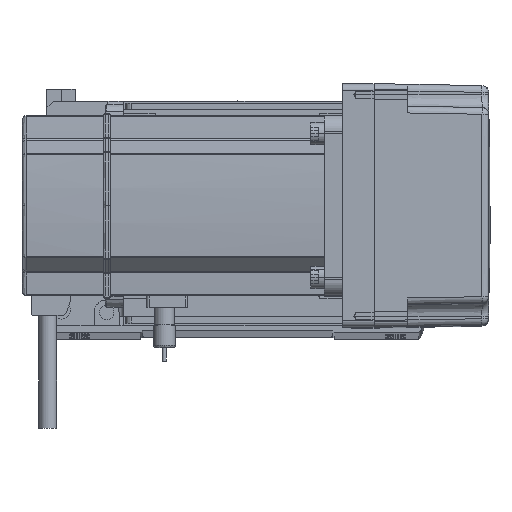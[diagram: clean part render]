
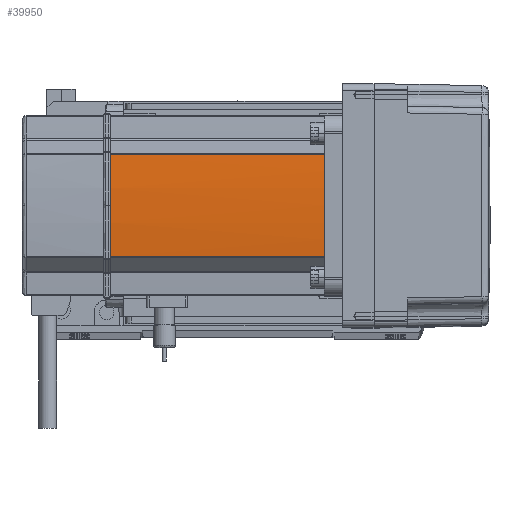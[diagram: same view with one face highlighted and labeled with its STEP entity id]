
A CAD part, top view. The second image highlights one B-rep face of the part: STEP entity #39950.
In plain terms, the highlighted cylindrical face has radius 270 mm (diameter 540 mm), a partial arc.
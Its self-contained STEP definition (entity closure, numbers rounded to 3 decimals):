
#248 = DIRECTION ( 'NONE',  ( 1., 0., 0. ) ) ;
#553 = CARTESIAN_POINT ( 'NONE',  ( -39.042, -22.724, 39. ) ) ;
#814 = LINE ( 'NONE', #28072, #47279 ) ;
#1216 = EDGE_CURVE ( 'NONE', #37154, #5732, #52872, .T. ) ;
#2341 = ORIENTED_EDGE ( 'NONE', *, *, #32151, .T. ) ;
#3020 = CIRCLE ( 'NONE', #60591, 270. ) ;
#3262 = LINE ( 'NONE', #45257, #34917 ) ;
#5732 = VERTEX_POINT ( 'NONE', #46870 ) ;
#8207 = DIRECTION ( 'NONE',  ( 0., 0., -1. ) ) ;
#9765 = EDGE_LOOP ( 'NONE', ( #23430, #49069, #2341, #39794, #60599 ) ) ;
#14971 = DIRECTION ( 'NONE',  ( 1., 0., 0. ) ) ;
#18410 = DIRECTION ( 'NONE',  ( 1., 0., 0. ) ) ;
#18942 = CYLINDRICAL_SURFACE ( 'NONE', #21194, 270. ) ;
#18997 = CARTESIAN_POINT ( 'NONE',  ( 230., 0., 39. ) ) ;
#19242 = AXIS2_PLACEMENT_3D ( 'NONE', #33208, #52009, #18410 ) ;
#20349 = DIRECTION ( 'NONE',  ( 1., 0., 0. ) ) ;
#20928 = VERTEX_POINT ( 'NONE', #44418 ) ;
#21194 = AXIS2_PLACEMENT_3D ( 'NONE', #29399, #33320, #20349 ) ;
#21406 = EDGE_CURVE ( 'NONE', #50534, #20928, #3020, .T. ) ;
#23430 = ORIENTED_EDGE ( 'NONE', *, *, #56382, .T. ) ;
#23763 = AXIS2_PLACEMENT_3D ( 'NONE', #47757, #57880, #14971 ) ;
#28072 = CARTESIAN_POINT ( 'NONE',  ( -39.042, -22.724, 0. ) ) ;
#28364 = CARTESIAN_POINT ( 'NONE',  ( -40., 0., 134. ) ) ;
#28438 = DIRECTION ( 'NONE',  ( 0., 0., -1. ) ) ;
#29399 = CARTESIAN_POINT ( 'NONE',  ( 230., 0., 0. ) ) ;
#32151 = EDGE_CURVE ( 'NONE', #5732, #20928, #3262, .T. ) ;
#33208 = CARTESIAN_POINT ( 'NONE',  ( 230., 0., 134. ) ) ;
#33320 = DIRECTION ( 'NONE',  ( 0., 0., 1. ) ) ;
#34917 = VECTOR ( 'NONE', #8207, 1000. ) ;
#37128 = DIRECTION ( 'NONE',  ( 0., 0., 1. ) ) ;
#37154 = VERTEX_POINT ( 'NONE', #28364 ) ;
#39794 = ORIENTED_EDGE ( 'NONE', *, *, #21406, .F. ) ;
#39950 = ADVANCED_FACE ( 'NONE', ( #56597 ), #18942, .T. ) ;
#44205 = VERTEX_POINT ( 'NONE', #49732 ) ;
#44418 = CARTESIAN_POINT ( 'NONE',  ( -39.042, 22.724, 39. ) ) ;
#45257 = CARTESIAN_POINT ( 'NONE',  ( -39.042, 22.724, 0. ) ) ;
#46870 = CARTESIAN_POINT ( 'NONE',  ( -39.042, 22.724, 134. ) ) ;
#47279 = VECTOR ( 'NONE', #37128, 1000. ) ;
#47757 = CARTESIAN_POINT ( 'NONE',  ( 230., 0., 134. ) ) ;
#49069 = ORIENTED_EDGE ( 'NONE', *, *, #1216, .T. ) ;
#49732 = CARTESIAN_POINT ( 'NONE',  ( -39.042, -22.724, 134. ) ) ;
#50534 = VERTEX_POINT ( 'NONE', #553 ) ;
#52009 = DIRECTION ( 'NONE',  ( 0., 0., -1. ) ) ;
#52872 = CIRCLE ( 'NONE', #23763, 270. ) ;
#55356 = CIRCLE ( 'NONE', #19242, 270. ) ;
#56382 = EDGE_CURVE ( 'NONE', #44205, #37154, #55356, .T. ) ;
#56597 = FACE_OUTER_BOUND ( 'NONE', #9765, .T. ) ;
#57880 = DIRECTION ( 'NONE',  ( 0., 0., -1. ) ) ;
#59581 = EDGE_CURVE ( 'NONE', #50534, #44205, #814, .T. ) ;
#60591 = AXIS2_PLACEMENT_3D ( 'NONE', #18997, #28438, #248 ) ;
#60599 = ORIENTED_EDGE ( 'NONE', *, *, #59581, .T. ) ;
